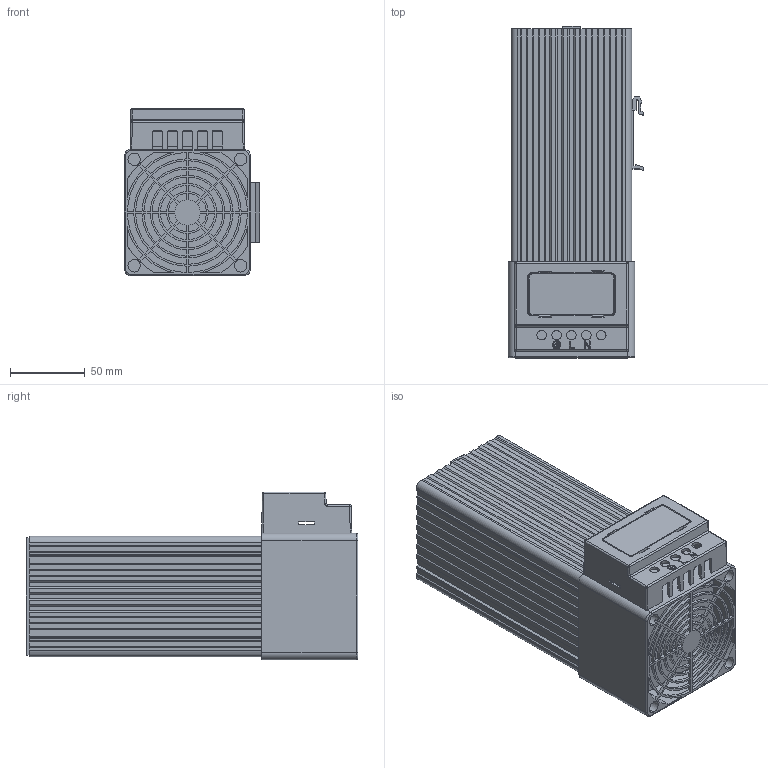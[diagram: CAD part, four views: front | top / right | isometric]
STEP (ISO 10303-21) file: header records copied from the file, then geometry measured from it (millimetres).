
FILE_DESCRIPTION (( 'STEP AP214' ), '1' );
FILE_NAME ('R5AHTF251.STEP', '2026-01-30T19:15:32', ( '' ), ( '' ), 'SwSTEP 2.0', 'SolidWorks 2022', '' );
FILE_SCHEMA (( 'AUTOMOTIVE_DESIGN' ));
Length unit declared in the file: millimetre
Products named in the file (1): R5AHTF251
Bounding box: 91.1 x 222.5 x 112.5 mm (x, y, z)
Volume: 629254.6 mm3; surface area: 338927.3 mm2
Topology: 6 solids, 6 shells, 1192 faces, 3439 edges, 2256 vertices
Faces by surface type: plane 779, cylinder 324, cone 39, bspline 36, sphere 8, torus 6
Entity records: 39786 total; most frequent: CARTESIAN_POINT 8278, ORIENTED_EDGE 6878, DIRECTION 6107, EDGE_CURVE 3439, VECTOR 2645, LINE 2645, VERTEX_POINT 2256, AXIS2_PLACEMENT_3D 1731
